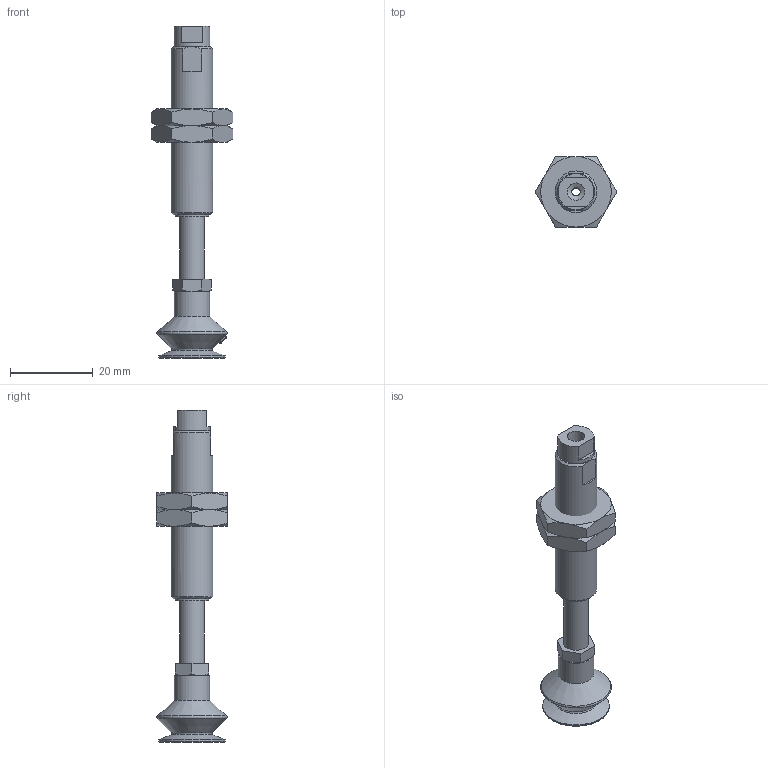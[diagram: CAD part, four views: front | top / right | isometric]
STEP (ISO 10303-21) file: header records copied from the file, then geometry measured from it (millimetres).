
FILE_DESCRIPTION(('STEP AP203'),'1');
FILE_NAME('-LB.stp','2025-10-10T05:37:28',(' '),(' '),'Spatial InterOp 3D',' ',' ');
FILE_SCHEMA(('CONFIG_CONTROL_DESIGN'));
Length unit declared in the file: millimetre
Products named in the file (10): BNABPBTH-15A-15-※-LB; NUT; __; BODY; TN-PS-10-M5; Setting screws-TN-PS-10-M5; BPBG-15A-※; __27; BPBG-15A
Assembly tree (9 placements, depth 3):
  BNABPBTH-15A-15-※-LB
    NUT
    NUT
    __
    BODY
    TN-PS-10-M5
      Setting screws-TN-PS-10-M5
    BPBG-15A-※
      __27
      BPBG-15A
Bounding box: 19.63 x 17 x 80 mm (x, y, z)
Volume: 6679.4 mm3; surface area: 5440.3 mm2
Topology: 7 solids, 7 shells, 141 faces, 304 edges, 186 vertices
Faces by surface type: plane 59, cone 45, cylinder 19, torus 10, bspline 8
Full cylindrical faces by diameter (mm): 2 x2, 3.9 x1, 4 x3, 4.2 x2, 5 x1, 6 x3, 8 x1, 8.5 x1, 8.7 x1, 9 x2, 10 x1, 16 x1
Entity records: 5231 total; most frequent: CARTESIAN_POINT 1991, DIRECTION 563, ORIENTED_EDGE 504, EDGE_CURVE 252, AXIS2_PLACEMENT_3D 247, EDGE_LOOP 201, VERTEX_POINT 173, FACE_OUTER_BOUND 170
